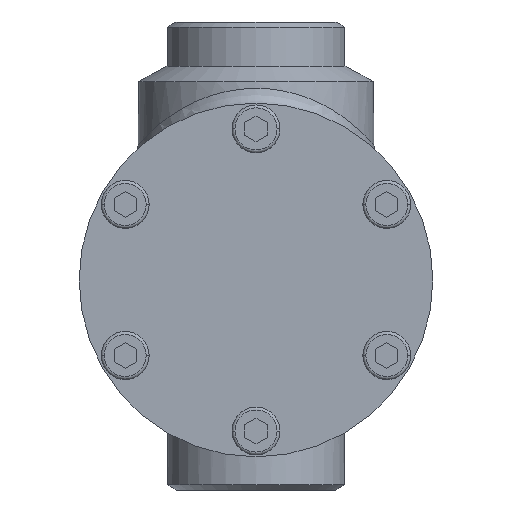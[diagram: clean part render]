
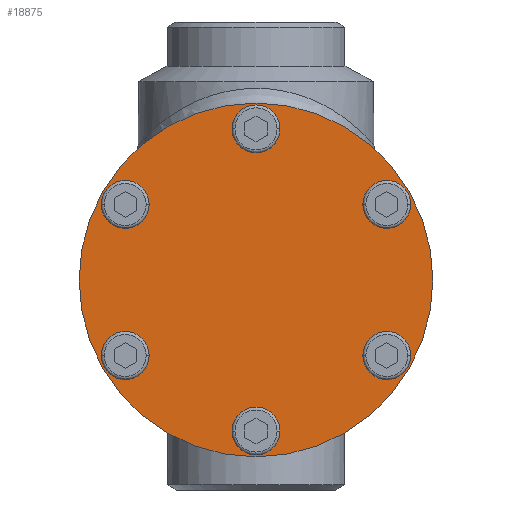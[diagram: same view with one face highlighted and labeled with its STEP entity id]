
A CAD part, front view. The second image highlights one B-rep face of the part: STEP entity #18875.
In plain terms, the highlighted planar face has unit normal (0, -1, 0) as drawn and (0, 0, -1) by its records, which use the part's own axes.
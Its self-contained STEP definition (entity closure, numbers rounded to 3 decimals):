
#16548 = VERTEX_POINT ( 'NONE', #2028 ) ;
#16549 = VERTEX_POINT ( 'NONE', #2029 ) ;
#250 = VERTEX_POINT ( 'NONE', #14130 ) ;
#16756 = EDGE_CURVE ( 'NONE', #11633, #12755, #2164, .T. ) ;
#458 = ORIENTED_EDGE ( 'NONE', *, *, #10785, .F. ) ;
#491 = CIRCLE ( 'NONE', #509, 4.5 ) ;
#509 = AXIS2_PLACEMENT_3D ( 'NONE', #510, #511, #512 ) ;
#510 = CARTESIAN_POINT ( 'NONE',  ( 0., -41., -41.5 ) ) ;
#511 = DIRECTION ( 'NONE',  ( 0., 0., -1. ) ) ;
#512 = DIRECTION ( 'NONE',  ( 1., 0., 0. ) ) ;
#513 = CARTESIAN_POINT ( 'NONE',  ( -31.007, 20.5, -41.5 ) ) ;
#16973 = EDGE_CURVE ( 'NONE', #16549, #16548, #2448, .T. ) ;
#668 = EDGE_CURVE ( 'NONE', #250, #28841, #14312, .T. ) ;
#17445 = ORIENTED_EDGE ( 'NONE', *, *, #16756, .F. ) ;
#17764 = VERTEX_POINT ( 'NONE', #2957 ) ;
#1429 = EDGE_LOOP ( 'NONE', ( #458, #28495 ) ) ;
#1549 = CARTESIAN_POINT ( 'NONE',  ( 31.007, 20.5, -41.5 ) ) ;
#18178 = EDGE_CURVE ( 'NONE', #19841, #17764, #3415, .T. ) ;
#1874 = ORIENTED_EDGE ( 'NONE', *, *, #18178, .F. ) ;
#2022 = CIRCLE ( 'NONE', #2023, 4.5 ) ;
#2023 = AXIS2_PLACEMENT_3D ( 'NONE', #2024, #2025, #2026 ) ;
#2024 = CARTESIAN_POINT ( 'NONE',  ( -35.507, -20.5, -41.5 ) ) ;
#2025 = DIRECTION ( 'NONE',  ( 0., 0., -1. ) ) ;
#2026 = DIRECTION ( 'NONE',  ( 0.5, -0.866, 0. ) ) ;
#2028 = CARTESIAN_POINT ( 'NONE',  ( -4.5, 41., -41.5 ) ) ;
#2029 = CARTESIAN_POINT ( 'NONE',  ( 4.5, 41., -41.5 ) ) ;
#18416 = EDGE_LOOP ( 'NONE', ( #17445, #4279 ) ) ;
#2164 = CIRCLE ( 'NONE', #2165, 4.5 ) ;
#2165 = AXIS2_PLACEMENT_3D ( 'NONE', #2166, #2167, #2168 ) ;
#2166 = CARTESIAN_POINT ( 'NONE',  ( 35.507, 20.5, -41.5 ) ) ;
#2167 = DIRECTION ( 'NONE',  ( 0., 0., -1. ) ) ;
#2168 = DIRECTION ( 'NONE',  ( -0.5, 0.866, 0. ) ) ;
#2448 = CIRCLE ( 'NONE', #2449, 4.5 ) ;
#2449 = AXIS2_PLACEMENT_3D ( 'NONE', #2450, #2451, #2452 ) ;
#2450 = CARTESIAN_POINT ( 'NONE',  ( 0., 41., -41.5 ) ) ;
#2451 = DIRECTION ( 'NONE',  ( 0., 0., -1. ) ) ;
#2452 = DIRECTION ( 'NONE',  ( -1., 0., 0. ) ) ;
#18875 = ADVANCED_FACE ( 'NONE', ( #4766, #4767, #4768, #4769, #4770, #4771, #4772 ), #4809, .F. ) ;
#18880 = CIRCLE ( 'NONE', #18881, 4.5 ) ;
#18881 = AXIS2_PLACEMENT_3D ( 'NONE', #18882, #18883, #18884 ) ;
#18882 = CARTESIAN_POINT ( 'NONE',  ( -35.507, -20.5, -41.5 ) ) ;
#18883 = DIRECTION ( 'NONE',  ( 0., 0., -1. ) ) ;
#18884 = DIRECTION ( 'NONE',  ( 0.5, -0.866, 0. ) ) ;
#2847 = ORIENTED_EDGE ( 'NONE', *, *, #19595, .F. ) ;
#2957 = CARTESIAN_POINT ( 'NONE',  ( 31.007, -20.5, -41.5 ) ) ;
#19595 = EDGE_CURVE ( 'NONE', #17764, #19841, #8616, .T. ) ;
#3335 = CIRCLE ( 'NONE', #3336, 4.5 ) ;
#3336 = AXIS2_PLACEMENT_3D ( 'NONE', #3337, #3338, #3339 ) ;
#3337 = CARTESIAN_POINT ( 'NONE',  ( 35.507, 20.5, -41.5 ) ) ;
#3338 = DIRECTION ( 'NONE',  ( 0., 0., -1. ) ) ;
#3339 = DIRECTION ( 'NONE',  ( -0.5, 0.866, 0. ) ) ;
#3415 = CIRCLE ( 'NONE', #3416, 4.5 ) ;
#3416 = AXIS2_PLACEMENT_3D ( 'NONE', #3417, #3418, #3419 ) ;
#3417 = CARTESIAN_POINT ( 'NONE',  ( 35.507, -20.5, -41.5 ) ) ;
#3418 = DIRECTION ( 'NONE',  ( 0., 0., -1. ) ) ;
#3419 = DIRECTION ( 'NONE',  ( 0.5, 0.866, 0. ) ) ;
#3420 = CARTESIAN_POINT ( 'NONE',  ( -31.007, -20.5, -41.5 ) ) ;
#19841 = VERTEX_POINT ( 'NONE', #8695 ) ;
#3821 = EDGE_LOOP ( 'NONE', ( #2847, #1874 ) ) ;
#3880 = CARTESIAN_POINT ( 'NONE',  ( 4.5, -41., -41.5 ) ) ;
#4279 = ORIENTED_EDGE ( 'NONE', *, *, #11860, .F. ) ;
#4483 = CARTESIAN_POINT ( 'NONE',  ( -48., 0., -41.5 ) ) ;
#4766 = FACE_BOUND ( 'NONE', #18416, .T. ) ;
#4767 = FACE_BOUND ( 'NONE', #3821, .T. ) ;
#4768 = FACE_BOUND ( 'NONE', #1429, .T. ) ;
#4769 = FACE_BOUND ( 'NONE', #28044, .T. ) ;
#4770 = FACE_BOUND ( 'NONE', #25331, .T. ) ;
#4771 = FACE_BOUND ( 'NONE', #9252, .T. ) ;
#4772 = FACE_OUTER_BOUND ( 'NONE', #7964, .T. ) ;
#4782 = CARTESIAN_POINT ( 'NONE',  ( 40.007, 20.5, -41.5 ) ) ;
#4809 = PLANE ( 'NONE',  #4810 ) ;
#4810 = AXIS2_PLACEMENT_3D ( 'NONE', #4811, #4812, #4813 ) ;
#4811 = CARTESIAN_POINT ( 'NONE',  ( 0., 0., -41.5 ) ) ;
#4812 = DIRECTION ( 'NONE',  ( 0., 0., 1. ) ) ;
#4813 = DIRECTION ( 'NONE',  ( 1., 0., 0. ) ) ;
#4870 = VERTEX_POINT ( 'NONE', #25344 ) ;
#5284 = EDGE_CURVE ( 'NONE', #6720, #4870, #2022, .T. ) ;
#6720 = VERTEX_POINT ( 'NONE', #3420 ) ;
#6911 = ORIENTED_EDGE ( 'NONE', *, *, #16026, .F. ) ;
#7436 = ORIENTED_EDGE ( 'NONE', *, *, #668, .F. ) ;
#7455 = EDGE_CURVE ( 'NONE', #24281, #11135, #8607, .T. ) ;
#24281 = VERTEX_POINT ( 'NONE', #26810 ) ;
#7964 = EDGE_LOOP ( 'NONE', ( #7436, #6911 ) ) ;
#8209 = ORIENTED_EDGE ( 'NONE', *, *, #16973, .F. ) ;
#24696 = EDGE_CURVE ( 'NONE', #11135, #24281, #26987, .T. ) ;
#8607 = CIRCLE ( 'NONE', #8608, 4.5 ) ;
#8608 = AXIS2_PLACEMENT_3D ( 'NONE', #8609, #8610, #8611 ) ;
#8609 = CARTESIAN_POINT ( 'NONE',  ( -35.507, 20.5, -41.5 ) ) ;
#8610 = DIRECTION ( 'NONE',  ( 0., 0., -1. ) ) ;
#8611 = DIRECTION ( 'NONE',  ( -0.5, -0.866, 0. ) ) ;
#8616 = CIRCLE ( 'NONE', #8617, 4.5 ) ;
#8617 = AXIS2_PLACEMENT_3D ( 'NONE', #8618, #8619, #8621 ) ;
#8618 = CARTESIAN_POINT ( 'NONE',  ( 35.507, -20.5, -41.5 ) ) ;
#8619 = DIRECTION ( 'NONE',  ( 0., 0., -1. ) ) ;
#8621 = DIRECTION ( 'NONE',  ( 0.5, 0.866, 0. ) ) ;
#8695 = CARTESIAN_POINT ( 'NONE',  ( 40.007, -20.5, -41.5 ) ) ;
#8726 = ORIENTED_EDGE ( 'NONE', *, *, #25680, .F. ) ;
#25298 = CIRCLE ( 'NONE', #25299, 48. ) ;
#25299 = AXIS2_PLACEMENT_3D ( 'NONE', #25300, #25301, #25302 ) ;
#25300 = CARTESIAN_POINT ( 'NONE',  ( 0., 0., -41.5 ) ) ;
#25301 = DIRECTION ( 'NONE',  ( 0., 0., 1. ) ) ;
#25302 = DIRECTION ( 'NONE',  ( 1., 0., 0. ) ) ;
#25331 = EDGE_LOOP ( 'NONE', ( #10009, #9494 ) ) ;
#25344 = CARTESIAN_POINT ( 'NONE',  ( -40.007, -20.5, -41.5 ) ) ;
#9252 = EDGE_LOOP ( 'NONE', ( #8726, #8209 ) ) ;
#25680 = EDGE_CURVE ( 'NONE', #16548, #16549, #27791, .T. ) ;
#25786 = ORIENTED_EDGE ( 'NONE', *, *, #5284, .F. ) ;
#9494 = ORIENTED_EDGE ( 'NONE', *, *, #24696, .F. ) ;
#25991 = VERTEX_POINT ( 'NONE', #28005 ) ;
#10009 = ORIENTED_EDGE ( 'NONE', *, *, #7455, .F. ) ;
#26409 = EDGE_CURVE ( 'NONE', #28077, #25991, #491, .T. ) ;
#26810 = CARTESIAN_POINT ( 'NONE',  ( -40.007, 20.5, -41.5 ) ) ;
#26987 = CIRCLE ( 'NONE', #26988, 4.5 ) ;
#26988 = AXIS2_PLACEMENT_3D ( 'NONE', #26989, #26990, #26991 ) ;
#26989 = CARTESIAN_POINT ( 'NONE',  ( -35.507, 20.5, -41.5 ) ) ;
#26990 = DIRECTION ( 'NONE',  ( 0., 0., -1. ) ) ;
#26991 = DIRECTION ( 'NONE',  ( -0.5, -0.866, 0. ) ) ;
#27069 = ORIENTED_EDGE ( 'NONE', *, *, #13874, .F. ) ;
#10785 = EDGE_CURVE ( 'NONE', #25991, #28077, #27833, .T. ) ;
#11135 = VERTEX_POINT ( 'NONE', #513 ) ;
#27791 = CIRCLE ( 'NONE', #27792, 4.5 ) ;
#27792 = AXIS2_PLACEMENT_3D ( 'NONE', #27793, #27794, #27795 ) ;
#27793 = CARTESIAN_POINT ( 'NONE',  ( 0., 41., -41.5 ) ) ;
#27794 = DIRECTION ( 'NONE',  ( 0., 0., -1. ) ) ;
#27795 = DIRECTION ( 'NONE',  ( -1., 0., 0. ) ) ;
#27833 = CIRCLE ( 'NONE', #27834, 4.5 ) ;
#27834 = AXIS2_PLACEMENT_3D ( 'NONE', #27835, #27836, #27855 ) ;
#27835 = CARTESIAN_POINT ( 'NONE',  ( 0., -41., -41.5 ) ) ;
#27836 = DIRECTION ( 'NONE',  ( 0., 0., -1. ) ) ;
#27855 = DIRECTION ( 'NONE',  ( 1., 0., 0. ) ) ;
#28005 = CARTESIAN_POINT ( 'NONE',  ( -4.5, -41., -41.5 ) ) ;
#11633 = VERTEX_POINT ( 'NONE', #1549 ) ;
#28044 = EDGE_LOOP ( 'NONE', ( #27069, #25786 ) ) ;
#28077 = VERTEX_POINT ( 'NONE', #3880 ) ;
#11860 = EDGE_CURVE ( 'NONE', #12755, #11633, #3335, .T. ) ;
#28495 = ORIENTED_EDGE ( 'NONE', *, *, #26409, .F. ) ;
#28841 = VERTEX_POINT ( 'NONE', #4483 ) ;
#12755 = VERTEX_POINT ( 'NONE', #4782 ) ;
#13874 = EDGE_CURVE ( 'NONE', #4870, #6720, #18880, .T. ) ;
#14130 = CARTESIAN_POINT ( 'NONE',  ( 48., 0., -41.5 ) ) ;
#14312 = CIRCLE ( 'NONE', #14313, 48. ) ;
#14313 = AXIS2_PLACEMENT_3D ( 'NONE', #14334, #14335, #14336 ) ;
#14334 = CARTESIAN_POINT ( 'NONE',  ( 0., 0., -41.5 ) ) ;
#14335 = DIRECTION ( 'NONE',  ( 0., 0., 1. ) ) ;
#14336 = DIRECTION ( 'NONE',  ( 1., 0., 0. ) ) ;
#16026 = EDGE_CURVE ( 'NONE', #28841, #250, #25298, .T. ) ;
